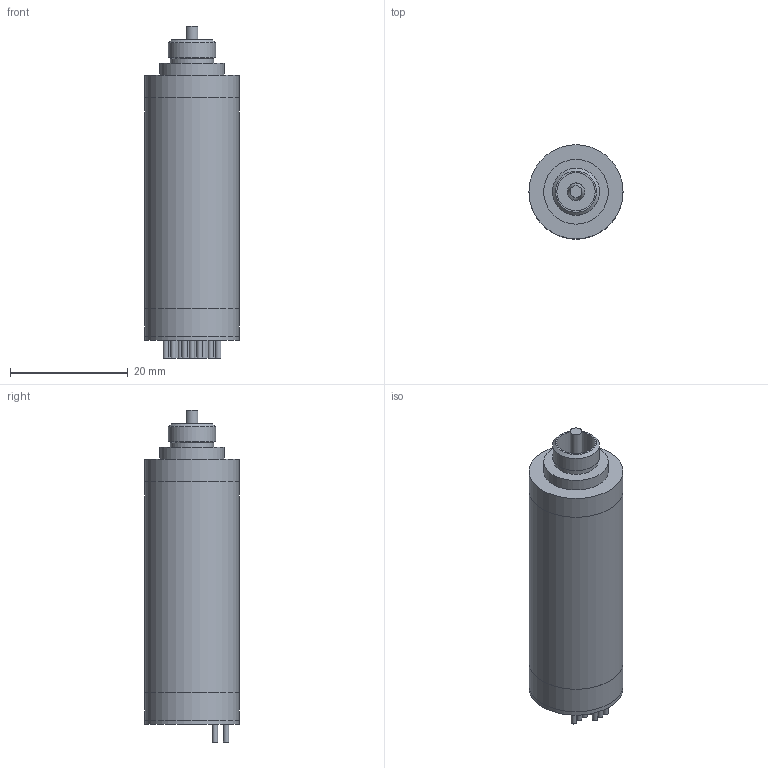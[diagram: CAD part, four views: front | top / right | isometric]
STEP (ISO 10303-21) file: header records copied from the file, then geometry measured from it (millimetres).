
FILE_DESCRIPTION(/* description */ (''),/* implementation_level */ '2;1');
FILE_NAME(/* name */ '1645S_BHS_1510.stp',/* time_stamp */ '2018-08-15T10:33:27+02:00',/* author */ ('DR. FRITZ FAULHABER GmbH & Co. KG'),/* organization */ ('DR. FRITZ FAULHABER GmbH & Co. KG'),/* preprocessor_version */ 'ST-DEVELOPER v16.7',/* originating_system */ 'SIEMENS PLM Software NX 12.0',/* authorisation */ '');
FILE_SCHEMA (('AUTOMOTIVE_DESIGN { 1 0 10303 214 3 1 1 1 }'));
Length unit declared in the file: millimetre
Products named in the file (1): Alle_Motoren
Bounding box: 16 x 16 x 56.43 mm (x, y, z)
Volume: 9331.9 mm3; surface area: 3094.7 mm2
Topology: 1 solids, 1 shells, 64 faces, 142 edges, 94 vertices
Faces by surface type: cylinder 30, plane 30, cone 2, torus 2
Full cylindrical faces by diameter (mm): 0.9 x3, 2 x1, 3 x1, 6.5 x1, 7.4 x1, 8 x1, 11 x1, 15.999 x3, 16 x4
Entity records: 1680 total; most frequent: DIRECTION 310, CARTESIAN_POINT 273, ORIENTED_EDGE 236, AXIS2_PLACEMENT_3D 127, EDGE_CURVE 118, EDGE_LOOP 98, VERTEX_POINT 90, FACE_BOUND 65
